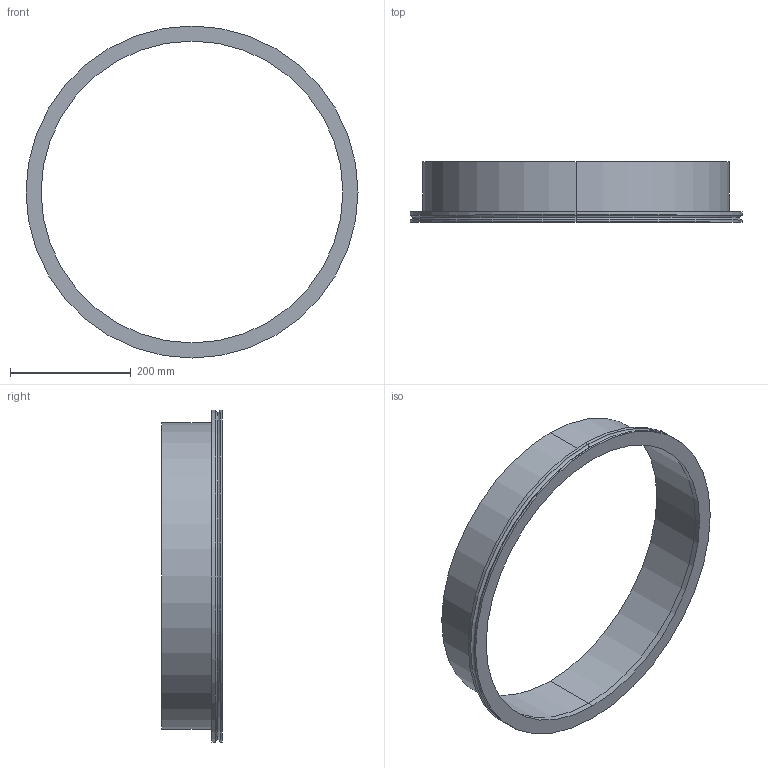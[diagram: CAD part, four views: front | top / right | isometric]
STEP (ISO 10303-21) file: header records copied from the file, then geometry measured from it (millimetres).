
FILE_DESCRIPTION (( 'STEP AP214' ), '1' );
FILE_NAME ('W4KR500.STEP', '2019-04-06T08:15:48', ( '' ), ( '' ), 'SwSTEP 2.0', 'SolidWorks 2018', '' );
FILE_SCHEMA (( 'AUTOMOTIVE_DESIGN' ));
Length unit declared in the file: millimetre
Products named in the file (1): W4KR500
Bounding box: 550 x 100 x 550 mm (x, y, z)
Volume: 1122286.3 mm3; surface area: 444313.9 mm2
Topology: 2 solids, 2 shells, 24 faces, 48 edges, 30 vertices
Faces by surface type: cylinder 14, plane 6, torus 4
Entity records: 689 total; most frequent: DIRECTION 132, CARTESIAN_POINT 103, ORIENTED_EDGE 96, AXIS2_PLACEMENT_3D 59, EDGE_CURVE 48, CIRCLE 34, VERTEX_POINT 30, EDGE_LOOP 30
